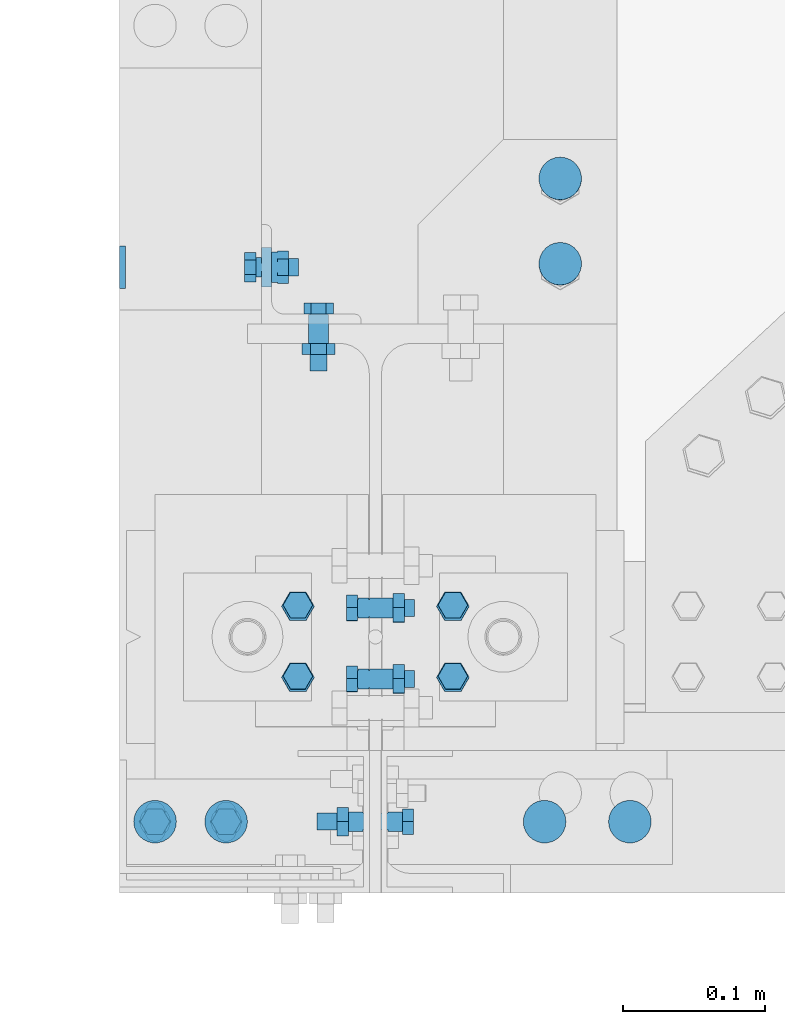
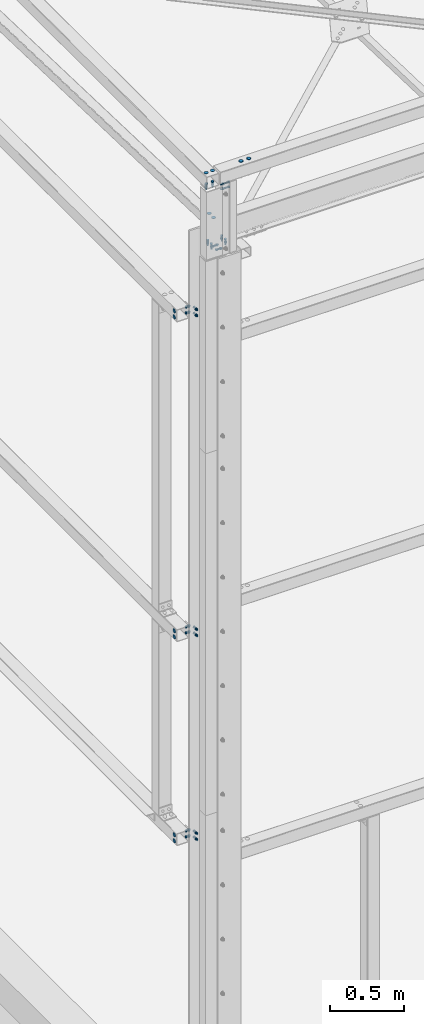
# One storey, part 202 of 362: 17 mechanical fasteners.
"""IFC2X3 building model written with IfcOpenShell, lengths in millimetres."""

from ifc_helpers import new_model, si_unit, frame, frame_2d, origin_with_axes, origin_2d_with_axis, place, context, subcontext, project, spatial, polyline, circle_curve, parameter, trimmed, segment, composite_curve, circle, outline, extrude, source, transform, mapped, material, type_object, element, save


model = new_model("IFC2X3")

# Units and contexts
model_context = context("Model", 3, precision=1e-05, world=origin_with_axes())
body_context = subcontext(model_context, "Body", "Model", "MODEL_VIEW")
ifc_project = project(units=[si_unit("LENGTHUNIT", "METRE", prefix="MILLI"), si_unit("AREAUNIT", "SQUARE_METRE"), si_unit("VOLUMEUNIT", "CUBIC_METRE"), si_unit("MASSUNIT", "GRAM", prefix="KILO"), si_unit("TIMEUNIT", "SECOND"), si_unit("PLANEANGLEUNIT", "RADIAN"), si_unit("SOLIDANGLEUNIT", "STERADIAN"), si_unit("THERMODYNAMICTEMPERATUREUNIT", "DEGREE_CELSIUS"), si_unit("LUMINOUSINTENSITYUNIT", "LUMEN")], contexts=[model_context])

# Site, building, storey
site_placement = place(None, origin_with_axes())
site = spatial("IfcSite", under=ifc_project, at=site_placement, Name="Undefined", CompositionType="ELEMENT")
building_placement = place(site_placement, origin_with_axes())
building = spatial("IfcBuilding", under=site, at=building_placement, Name="Undefined", CompositionType="ELEMENT")
storey_placement = place(building_placement, origin_with_axes())
storey = spatial("IfcBuildingStorey", under=building, at=storey_placement, Name="Undefined", CompositionType="ELEMENT", Elevation=0.0)

# Mechanical fasteners
ifc_material_1 = material(Name="6.8")
mechanical_fastener_type = type_object("IfcMechanicalFastenerType", Name="Bolt assembly")
shared_shape_1 = source(origin_with_axes(), body_context, "Body", "SweptSolid", [
    extrude(circle(Radius=15.0, at=origin_2d_with_axis()), frame((0.0, 0.0, 0.0), z_axis=(0.0, 1.0, 0.0), x_axis=(1.0, 0.0, 0.0)), (0.0, 0.0, 1.0), 4.1),
])
for number, where, z_axis, x_axis, name in (
    (1, (-180.000001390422, 260.00003670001, 7150.00005189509), (0.0, 0.0, 1.0), (0.0, -1.0, 0.0), "Bolt assembly"),
    (2, (-180.000001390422, 259.999986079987, 2810.00002756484), (0.0, 0.0, 1.0), (0.0, -1.0, 0.0), "Bolt assembly"),
    (3, (-180.000001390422, 259.999999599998, 4500.00002768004), (0.0, 0.0, 1.0), (0.0, -1.0, 0.0), "Bolt assembly"),
):
    element("IfcMechanicalFastener", number, at=place(storey_placement, frame(where, z_axis=z_axis, x_axis=x_axis)), inside=storey, type_object=mechanical_fastener_type, material=ifc_material_1, Name=name, NominalDiameter=30.0, NominalLength=4.0, context=body_context, shape_type="MappedRepresentation", body=[
        mapped(shared_shape_1, transform((0.0, 0.0, -25.0))),
        mapped(shared_shape_1, transform((0.0, 0.0, 25.0))),
    ])
mechanical_fastener_1_placement = place(storey_placement, frame((129.999999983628, 322.463518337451, 7839.76745415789), z_axis=(1.0, 0.0, 0.0), x_axis=(0.0, -0.999506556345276, 0.031410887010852)))
element("IfcMechanicalFastener", 4, at=mechanical_fastener_1_placement, inside=storey, type_object=mechanical_fastener_type, material=ifc_material_1, Name="Bolt assembly", NominalDiameter=30.0, NominalLength=4.0, context=body_context, shape_type="MappedRepresentation", body=[
    mapped(shared_shape_1, transform((0.0, 0.0, 0.0))),
    mapped(shared_shape_1, transform((60.0, 0.0, 0.0))),
])
mechanical_fastener_2_placement = place(storey_placement, frame((-154.999999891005, -130.000005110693, 8550.00000001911), z_axis=(0.0, 1.0, 0.0), x_axis=(1.0, 0.0, 0.0)))
element("IfcMechanicalFastener", 5, at=mechanical_fastener_2_placement, inside=storey, type_object=mechanical_fastener_type, material=ifc_material_1, Name="Bolt assembly", NominalDiameter=30.0, NominalLength=4.0, context=body_context, shape_type="MappedRepresentation", body=[
    mapped(shared_shape_1, transform((0.0, 0.0, 0.0))),
    mapped(shared_shape_1, transform((49.9999999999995, 0.0, -3.63797880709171e-12))),
])
mechanical_fastener_3_placement = place(storey_placement, frame((179.000000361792, -130.000005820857, 8550.0), z_axis=(0.0, -1.0, 0.0), x_axis=(-1.0, 0.0, 0.0)))
element("IfcMechanicalFastener", 6, at=mechanical_fastener_3_placement, inside=storey, type_object=mechanical_fastener_type, material=ifc_material_1, Name="Bolt assembly", NominalDiameter=30.0, NominalLength=4.0, context=body_context, shape_type="MappedRepresentation", body=[
    mapped(shared_shape_1, transform((0.0, 0.0, 0.0))),
    mapped(shared_shape_1, transform((60.0, 0.0, 0.0))),
])
ifc_material_2 = material(Name="8.8-SB-ZINGUE")
shared_shape_2 = source(origin_with_axes(), body_context, "Body", "SweptSolid", [
    extrude(circle(Radius=7.0, at=origin_2d_with_axis()), frame((0.0, -3.89999843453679, 0.0), z_axis=(0.0, 1.0, 0.0), x_axis=(1.0, 0.0, 0.0)), (0.0, 0.0, 1.0), 4.0),
    extrude(outline(composite_curve([segment(polyline([(-7.0, 7.0), (7.0, 7.0)]), True, "CONTINUOUS"), segment(trimmed(circle_curve(frame_2d((7.0, 0.0), x_axis=(0.0, 1.0)), 7.0), [parameter(0.0)], [parameter(3.14159265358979)], False, "PARAMETER"), True, "CONTINUOUS"), segment(polyline([(7.0, -7.0), (-7.0, -7.0)]), True, "CONTINUOUS"), segment(trimmed(circle_curve(frame_2d((-7.0, 0.0), x_axis=(0.0, -1.0)), 7.0), [parameter(0.0)], [parameter(3.14159265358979)], False, "PARAMETER"), True, "DISCONTINUOUS")], self_intersect=False)), frame((0.0, -0.100011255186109, 0.0), z_axis=(0.0, 1.0, 0.0), x_axis=(1.0, 0.0, 0.0)), (0.0, 0.0, 1.0), 7.1),
    extrude(outline(polyline([(10.39230484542, 0.0), (5.19615242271, 9.00000000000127), (-5.19615242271, 9.00000000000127), (-10.39230484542, 0.0), (-5.19615242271, -9.00000000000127), (5.19615242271, -9.00000000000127), (10.39230484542, 0.0)])), frame((0.0, -11.9199984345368, 0.0), z_axis=(0.0, 1.0, 0.0), x_axis=(1.0, 0.0, 0.0)), (0.0, 0.0, 1.0), 7.92),
    extrude(circle(Radius=6.0, at=origin_2d_with_axis()), frame((0.0, -3.99999923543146, 0.0), z_axis=(0.0, 1.0, 0.0), x_axis=(1.0, 0.0, 0.0)), (0.0, 0.0, 1.0), 30.0),
    extrude(circle(Radius=10.8, at=origin_2d_with_axis()), frame((0.0, 7.0, 0.0), z_axis=(0.0, 1.0, 0.0), x_axis=(1.0, 0.0, 0.0)), (0.0, 0.0, 1.0), 3.96),
    extrude(outline(polyline([(11.5008173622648, 0.0), (5.7504086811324, 9.96000000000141), (-5.7504086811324, 9.96000000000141), (-11.5008173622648, 0.0), (-5.7504086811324, -9.96000000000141), (5.7504086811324, -9.96000000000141), (11.5008173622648, 0.0)])), frame((0.0, 10.96, 0.0), z_axis=(0.0, 1.0, 0.0), x_axis=(1.0, 0.0, 0.0)), (0.0, 0.0, 1.0), 7.92),
])
mechanical_fastener_4_placement = place(storey_placement, frame((-80.0000013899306, 260.000036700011, 7150.00005189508), z_axis=(0.0, 0.0, 1.0), x_axis=(0.0, -1.0, 0.0)))
element("IfcMechanicalFastener", 7, at=mechanical_fastener_4_placement, inside=storey, type_object=mechanical_fastener_type, material=ifc_material_2, Name="Bolt assembly", NominalDiameter=12.0, NominalLength=30.0, context=body_context, shape_type="MappedRepresentation", body=[
    mapped(shared_shape_2, transform((0.0, 0.0, -25.0))),
    mapped(shared_shape_2, transform((0.0, 0.0, 25.0))),
])
shared_shape_3 = source(origin_with_axes(), body_context, "Body", "SweptSolid", [
    extrude(circle(Radius=7.0, at=origin_2d_with_axis()), frame((0.0, -0.100011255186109, 0.0), z_axis=(0.0, 1.0, 0.0), x_axis=(1.0, 0.0, 0.0)), (0.0, 0.0, 1.0), 13.6),
    extrude(circle(Radius=7.0, at=origin_2d_with_axis()), frame((0.0, -6.9, 0.0), z_axis=(0.0, 1.0, 0.0), x_axis=(1.0, 0.0, 0.0)), (0.0, 0.0, 1.0), 7.0),
    extrude(outline(polyline([(10.39230484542, 0.0), (5.19615242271, 9.00000000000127), (-5.19615242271, 9.00000000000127), (-10.39230484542, 0.0), (-5.19615242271, -9.00000000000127), (5.19615242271, -9.00000000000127), (10.39230484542, 0.0)])), frame((0.0, -14.92, 0.0), z_axis=(0.0, 1.0, 0.0), x_axis=(1.0, 0.0, 0.0)), (0.0, 0.0, 1.0), 7.92),
    extrude(circle(Radius=6.0, at=origin_2d_with_axis()), frame((0.0, -7.0, 0.0), z_axis=(0.0, 1.0, 0.0), x_axis=(1.0, 0.0, 0.0)), (0.0, 0.0, 1.0), 40.0),
    extrude(outline(polyline([(11.5008173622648, 0.0), (5.7504086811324, 9.96000000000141), (-5.7504086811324, 9.96000000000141), (-11.5008173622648, 0.0), (-5.7504086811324, -9.96000000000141), (5.7504086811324, -9.96000000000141), (11.5008173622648, 0.0)])), frame((0.0, 13.4999999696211, 0.0), z_axis=(0.0, 1.0, 0.0), x_axis=(1.0, 0.0, 0.0)), (0.0, 0.0, 1.0), 7.92),
])
for number, where, z_axis, x_axis, name in (
    (8, (-40.0000013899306, 220.000019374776, 7150.00005217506), (0.0, 0.0, 1.0), (-1.0, 0.0, 0.0), "Bolt assembly"),
    (9, (-40.0000013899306, 219.999982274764, 4500.00002796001), (0.0, 0.0, 1.0), (-1.0, 0.0, 0.0), "Bolt assembly"),
):
    element("IfcMechanicalFastener", number, at=place(storey_placement, frame(where, z_axis=z_axis, x_axis=x_axis)), inside=storey, type_object=mechanical_fastener_type, material=ifc_material_2, Name=name, NominalDiameter=12.0, NominalLength=40.0, context=body_context, shape_type="MappedRepresentation", body=[
        mapped(shared_shape_3, transform((0.0, 0.0, -25.0))),
        mapped(shared_shape_3, transform((0.0, 0.0, 25.0))),
    ])
shared_shape_4 = source(origin_with_axes(), body_context, "Body", "SweptSolid", [
    extrude(circle(Radius=7.0, at=origin_2d_with_axis()), frame((0.0, -3.89999843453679, 0.0), z_axis=(0.0, 1.0, 0.0), x_axis=(1.0, 0.0, 0.0)), (0.0, 0.0, 1.0), 4.0),
    extrude(outline(composite_curve([segment(polyline([(-7.0, 7.0), (7.0, 7.0)]), True, "CONTINUOUS"), segment(trimmed(circle_curve(frame_2d((7.0, 0.0), x_axis=(0.0, 1.0)), 7.0), [parameter(0.0)], [parameter(3.14159265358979)], False, "PARAMETER"), True, "CONTINUOUS"), segment(polyline([(7.0, -7.0), (-7.0, -7.0)]), True, "CONTINUOUS"), segment(trimmed(circle_curve(frame_2d((-7.0, 0.0), x_axis=(0.0, -1.0)), 7.0), [parameter(0.0)], [parameter(3.14159265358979)], False, "PARAMETER"), True, "DISCONTINUOUS")], self_intersect=False)), frame((0.0, -0.100011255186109, 0.0), z_axis=(0.0, 1.0, 0.0), x_axis=(1.0, 0.0, 0.0)), (0.0, 0.0, 1.0), 7.1),
    extrude(outline(polyline([(10.39230484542, 0.0), (5.19615242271, 9.00000000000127), (-5.19615242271, 9.00000000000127), (-10.39230484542, 0.0), (-5.19615242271, -9.00000000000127), (5.19615242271, -9.00000000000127), (10.39230484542, 0.0)])), frame((0.0, -11.9199984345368, 0.0), z_axis=(0.0, 1.0, 0.0), x_axis=(1.0, 0.0, 0.0)), (0.0, 0.0, 1.0), 7.92),
    extrude(circle(Radius=6.0, at=origin_2d_with_axis()), frame((0.0, -3.99999923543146, 0.0), z_axis=(0.0, 1.0, 0.0), x_axis=(1.0, 0.0, 0.0)), (0.0, 0.0, 1.0), 30.0),
    extrude(circle(Radius=10.8, at=origin_2d_with_axis()), frame((0.0, 7.0, 0.0), z_axis=(0.0, 1.0, 0.0), x_axis=(1.0, 0.0, 0.0)), (0.0, 0.0, 1.0), 3.96),
    extrude(outline(polyline([(11.5008173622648, 0.0), (5.7504086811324, 9.96000000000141), (-5.7504086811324, 9.96000000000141), (-11.5008173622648, 0.0), (-5.7504086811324, -9.96000000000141), (5.7504086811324, -9.96000000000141), (11.5008173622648, 0.0)])), frame((0.0, 10.96, 0.0), z_axis=(0.0, 1.0, 0.0), x_axis=(1.0, 0.0, 0.0)), (0.0, 0.0, 1.0), 7.92),
])
mechanical_fastener_5_placement = place(storey_placement, frame((-80.0000013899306, 259.999986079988, 2810.00002756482), z_axis=(0.0, 0.0, 1.0), x_axis=(0.0, -1.0, 0.0)))
element("IfcMechanicalFastener", 10, at=mechanical_fastener_5_placement, inside=storey, type_object=mechanical_fastener_type, material=ifc_material_2, Name="Bolt assembly", NominalDiameter=12.0, NominalLength=30.0, context=body_context, shape_type="MappedRepresentation", body=[
    mapped(shared_shape_4, transform((0.0, 0.0, -25.0))),
    mapped(shared_shape_4, transform((0.0, 0.0, 25.0))),
])
shared_shape_5 = source(origin_with_axes(), body_context, "Body", "SweptSolid", [
    extrude(circle(Radius=7.0, at=origin_2d_with_axis()), frame((0.0, -0.10007666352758, 0.0), z_axis=(0.0, 1.0, 0.0), x_axis=(1.0, 0.0, 0.0)), (0.0, 0.0, 1.0), 13.6),
    extrude(circle(Radius=7.0, at=origin_2d_with_axis()), frame((0.0, -6.9, 0.0), z_axis=(0.0, 1.0, 0.0), x_axis=(1.0, 0.0, 0.0)), (0.0, 0.0, 1.0), 7.0),
    extrude(outline(polyline([(10.39230484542, 0.0), (5.19615242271, 9.00000000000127), (-5.19615242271, 9.00000000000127), (-10.39230484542, 0.0), (-5.19615242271, -9.00000000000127), (5.19615242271, -9.00000000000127), (10.39230484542, 0.0)])), frame((0.0, -14.92, 0.0), z_axis=(0.0, 1.0, 0.0), x_axis=(1.0, 0.0, 0.0)), (0.0, 0.0, 1.0), 7.92),
    extrude(circle(Radius=6.0, at=origin_2d_with_axis()), frame((0.0, -7.0, 0.0), z_axis=(0.0, 1.0, 0.0), x_axis=(1.0, 0.0, 0.0)), (0.0, 0.0, 1.0), 40.0),
    extrude(outline(polyline([(11.5008173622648, 0.0), (5.7504086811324, 9.96000000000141), (-5.7504086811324, 9.96000000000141), (-11.5008173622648, 0.0), (-5.7504086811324, -9.96000000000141), (5.7504086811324, -9.96000000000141), (11.5008173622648, 0.0)])), frame((0.0, 13.4999999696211, 0.0), z_axis=(0.0, 1.0, 0.0), x_axis=(1.0, 0.0, 0.0)), (0.0, 0.0, 1.0), 7.92),
])
mechanical_fastener_6_placement = place(storey_placement, frame((-40.0000013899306, 219.999968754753, 2810.00002784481), z_axis=(0.0, 0.0, 1.0), x_axis=(-1.0, 0.0, 0.0)))
element("IfcMechanicalFastener", 11, at=mechanical_fastener_6_placement, inside=storey, type_object=mechanical_fastener_type, material=ifc_material_2, Name="Bolt assembly", NominalDiameter=12.0, NominalLength=40.0, context=body_context, shape_type="MappedRepresentation", body=[
    mapped(shared_shape_5, transform((0.0, 0.0, -25.0))),
    mapped(shared_shape_5, transform((0.0, 0.0, 25.0))),
])
shared_shape_6 = source(origin_with_axes(), body_context, "Body", "SweptSolid", [
    extrude(circle(Radius=7.0, at=origin_2d_with_axis()), frame((0.0, -3.89999843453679, 0.0), z_axis=(0.0, 1.0, 0.0), x_axis=(1.0, 0.0, 0.0)), (0.0, 0.0, 1.0), 4.0),
    extrude(outline(composite_curve([segment(polyline([(-7.0, 7.0), (7.0, 7.0)]), True, "CONTINUOUS"), segment(trimmed(circle_curve(frame_2d((7.0, 0.0), x_axis=(0.0, 1.0)), 7.0), [parameter(0.0)], [parameter(3.14159265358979)], False, "PARAMETER"), True, "CONTINUOUS"), segment(polyline([(7.0, -7.0), (-7.0, -7.0)]), True, "CONTINUOUS"), segment(trimmed(circle_curve(frame_2d((-7.0, 0.0), x_axis=(0.0, -1.0)), 7.0), [parameter(0.0)], [parameter(3.14159265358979)], False, "PARAMETER"), True, "DISCONTINUOUS")], self_intersect=False)), frame((0.0, -0.100011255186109, 0.0), z_axis=(0.0, 1.0, 0.0), x_axis=(1.0, 0.0, 0.0)), (0.0, 0.0, 1.0), 7.1),
    extrude(outline(polyline([(10.39230484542, 0.0), (5.19615242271, 9.00000000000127), (-5.19615242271, 9.00000000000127), (-10.39230484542, 0.0), (-5.19615242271, -9.00000000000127), (5.19615242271, -9.00000000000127), (10.39230484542, 0.0)])), frame((0.0, -11.9199984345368, 0.0), z_axis=(0.0, 1.0, 0.0), x_axis=(1.0, 0.0, 0.0)), (0.0, 0.0, 1.0), 7.92),
    extrude(circle(Radius=6.0, at=origin_2d_with_axis()), frame((0.0, -3.99999923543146, 0.0), z_axis=(0.0, 1.0, 0.0), x_axis=(1.0, 0.0, 0.0)), (0.0, 0.0, 1.0), 30.0),
    extrude(circle(Radius=10.8, at=origin_2d_with_axis()), frame((0.0, 7.0, 0.0), z_axis=(0.0, 1.0, 0.0), x_axis=(1.0, 0.0, 0.0)), (0.0, 0.0, 1.0), 3.96),
    extrude(outline(polyline([(11.5008173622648, 0.0), (5.7504086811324, 9.96000000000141), (-5.7504086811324, 9.96000000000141), (-11.5008173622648, 0.0), (-5.7504086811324, -9.96000000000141), (5.7504086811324, -9.96000000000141), (11.5008173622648, 0.0)])), frame((0.0, 10.96, 0.0), z_axis=(0.0, 1.0, 0.0), x_axis=(1.0, 0.0, 0.0)), (0.0, 0.0, 1.0), 7.92),
])
mechanical_fastener_7_placement = place(storey_placement, frame((-80.0000013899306, 259.9999996, 4500.00002768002), z_axis=(0.0, 0.0, 1.0), x_axis=(0.0, -1.0, 0.0)))
element("IfcMechanicalFastener", 12, at=mechanical_fastener_7_placement, inside=storey, type_object=mechanical_fastener_type, material=ifc_material_2, Name="Bolt assembly", NominalDiameter=12.0, NominalLength=30.0, context=body_context, shape_type="MappedRepresentation", body=[
    mapped(shared_shape_6, transform((0.0, 0.0, -25.0))),
    mapped(shared_shape_6, transform((0.0, 0.0, 25.0))),
])
shared_shape_7 = source(origin_with_axes(), body_context, "Body", "SweptSolid", [
    extrude(circle(Radius=7.0, at=origin_2d_with_axis()), frame((0.0, -4.3000001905, 0.0), z_axis=(0.0, 1.0, 0.0), x_axis=(1.0, 0.0, 0.0)), (0.0, 0.0, 1.0), 8.6),
    extrude(circle(Radius=7.0, at=origin_2d_with_axis()), frame((0.0, -12.3999999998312, 0.0), z_axis=(0.0, 1.0, 0.0), x_axis=(1.0, 0.0, 0.0)), (0.0, 0.0, 1.0), 8.0),
    extrude(circle(Radius=7.0, at=origin_2d_with_axis()), frame((0.0, 4.39999999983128, 0.0), z_axis=(0.0, 1.0, 0.0), x_axis=(1.0, 0.0, 0.0)), (0.0, 0.0, 1.0), 8.1),
    extrude(outline(polyline([(10.39230484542, 0.0), (5.19615242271, 9.00000000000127), (-5.19615242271, 9.00000000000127), (-10.39230484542, 0.0), (-5.19615242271, -9.00000000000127), (5.19615242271, -9.00000000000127), (10.39230484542, 0.0)])), frame((0.0, -20.4199999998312, 0.0), z_axis=(0.0, 1.0, 0.0), x_axis=(1.0, 0.0, 0.0)), (0.0, 0.0, 1.0), 7.92),
    extrude(circle(Radius=6.0, at=origin_2d_with_axis()), frame((0.0, -12.4999999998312, 0.0), z_axis=(0.0, 1.0, 0.0), x_axis=(1.0, 0.0, 0.0)), (0.0, 0.0, 1.0), 40.0),
    extrude(outline(polyline([(11.5008173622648, 0.0), (5.7504086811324, 9.96000000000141), (-5.7504086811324, 9.96000000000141), (-11.5008173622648, 0.0), (-5.7504086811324, -9.96000000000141), (5.7504086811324, -9.96000000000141), (11.5008173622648, 0.0)])), frame((0.0, 12.4999999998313, 0.0), z_axis=(0.0, 1.0, 0.0), x_axis=(1.0, 0.0, 0.0)), (0.0, 0.0, 1.0), 7.92),
])
mechanical_fastener_8_placement = place(storey_placement, frame((0.0, -4.7114670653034, 7800.03150727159), z_axis=(3.14103090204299e-11, 0.999506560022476, -0.0314107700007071), x_axis=(7.58071938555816e-11, 0.0314107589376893, 0.999506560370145)))
element("IfcMechanicalFastener", 13, at=mechanical_fastener_8_placement, inside=storey, type_object=mechanical_fastener_type, material=ifc_material_2, Name="Bolt assembly", NominalDiameter=12.0, NominalLength=40.0, context=body_context, shape_type="MappedRepresentation", body=[
    mapped(shared_shape_7, transform((0.0, 0.0, -25.0))),
    mapped(shared_shape_7, transform((0.0, 0.0, 25.0))),
])
shared_shape_8 = source(origin_with_axes(), body_context, "Body", "SweptSolid", [
    extrude(circle(Radius=7.0, at=origin_2d_with_axis()), frame((0.0, -8.39309251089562, 0.0), z_axis=(0.0, 1.0, 0.0), x_axis=(1.0, 0.0, 0.0)), (0.0, 0.0, 1.0), 8.5),
    extrude(circle(Radius=7.0, at=origin_2d_with_axis()), frame((0.0, -0.100011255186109, 0.0), z_axis=(0.0, 1.0, 0.0), x_axis=(1.0, 0.0, 0.0)), (0.0, 0.0, 1.0), 8.1),
    extrude(outline(polyline([(10.39230484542, 0.0), (5.19615242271, 9.00000000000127), (-5.19615242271, 9.00000000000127), (-10.39230484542, 0.0), (-5.19615242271, -9.00000000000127), (5.19615242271, -9.00000000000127), (10.39230484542, 0.0)])), frame((0.0, -16.4130925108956, 0.0), z_axis=(0.0, 1.0, 0.0), x_axis=(1.0, 0.0, 0.0)), (0.0, 0.0, 1.0), 7.92),
    extrude(circle(Radius=6.0, at=origin_2d_with_axis()), frame((0.0, -8.49309251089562, 0.0), z_axis=(0.0, 1.0, 0.0), x_axis=(1.0, 0.0, 0.0)), (0.0, 0.0, 1.0), 40.49),
    extrude(outline(polyline([(11.5008173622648, 0.0), (5.7504086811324, 9.96000000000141), (-5.7504086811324, 9.96000000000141), (-11.5008173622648, 0.0), (-5.7504086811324, -9.96000000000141), (5.7504086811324, -9.96000000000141), (11.5008173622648, 0.0)])), frame((0.0, 8.00000527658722, 0.0), z_axis=(0.0, 1.0, 0.0), x_axis=(1.0, 0.0, 0.0)), (0.0, 0.0, 1.0), 7.92),
])
mechanical_fastener_9_placement = place(storey_placement, frame((-54.4999999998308, -3.14090619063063, 7850.0068345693), z_axis=(3.14103090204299e-11, 0.999506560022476, -0.0314107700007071), x_axis=(1.0, 0.0, 0.0)))
element("IfcMechanicalFastener", 14, at=mechanical_fastener_9_placement, inside=storey, type_object=mechanical_fastener_type, material=ifc_material_2, Name="Bolt assembly", NominalDiameter=12.0, NominalLength=40.4931221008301, context=body_context, shape_type="MappedRepresentation", body=[
    mapped(shared_shape_8, transform((0.0, 0.0, -25.0))),
    mapped(shared_shape_8, transform((0.0, 0.0, 25.0))),
])
shared_shape_9 = source(origin_with_axes(), body_context, "Body", "SweptSolid", [
    extrude(circle(Radius=7.0, at=origin_2d_with_axis()), frame((0.0, -8.39314340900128, 0.0), z_axis=(0.0, 1.0, 0.0), x_axis=(1.0, 0.0, 0.0)), (0.0, 0.0, 1.0), 8.5),
    extrude(circle(Radius=7.0, at=origin_2d_with_axis()), frame((0.0, -0.100011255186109, 0.0), z_axis=(0.0, 1.0, 0.0), x_axis=(1.0, 0.0, 0.0)), (0.0, 0.0, 1.0), 8.1),
    extrude(outline(polyline([(10.39230484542, 0.0), (5.19615242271, 9.00000000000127), (-5.19615242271, 9.00000000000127), (-10.39230484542, 0.0), (-5.19615242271, -9.00000000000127), (5.19615242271, -9.00000000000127), (10.39230484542, 0.0)])), frame((0.0, -16.4131434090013, 0.0), z_axis=(0.0, 1.0, 0.0), x_axis=(1.0, 0.0, 0.0)), (0.0, 0.0, 1.0), 7.92),
    extrude(circle(Radius=6.0, at=origin_2d_with_axis()), frame((0.0, -8.49314340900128, 0.0), z_axis=(0.0, 1.0, 0.0), x_axis=(1.0, 0.0, 0.0)), (0.0, 0.0, 1.0), 40.49),
    extrude(outline(polyline([(11.5008173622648, 0.0), (5.7504086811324, 9.96000000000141), (-5.7504086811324, 9.96000000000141), (-11.5008173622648, 0.0), (-5.7504086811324, -9.96000000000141), (5.7504086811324, -9.96000000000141), (11.5008173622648, 0.0)])), frame((0.0, 8.00000527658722, 0.0), z_axis=(0.0, 1.0, 0.0), x_axis=(1.0, 0.0, 0.0)), (0.0, 0.0, 1.0), 7.92),
])
mechanical_fastener_10_placement = place(storey_placement, frame((54.4999999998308, -3.14090619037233, 7850.00683456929), z_axis=(0.0, -0.999506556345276, 0.031410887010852), x_axis=(-1.0, 0.0, 0.0)))
element("IfcMechanicalFastener", 15, at=mechanical_fastener_10_placement, inside=storey, type_object=mechanical_fastener_type, material=ifc_material_2, Name="Bolt assembly", NominalDiameter=12.0, NominalLength=40.4931449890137, context=body_context, shape_type="MappedRepresentation", body=[
    mapped(shared_shape_9, transform((0.0, 0.0, -25.0))),
    mapped(shared_shape_9, transform((0.0, 0.0, 25.0))),
])
shared_shape_10 = source(origin_with_axes(), body_context, "Body", "SweptSolid", [
    extrude(circle(Radius=7.0, at=origin_2d_with_axis()), frame((0.0, -3.89999843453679, 0.0), z_axis=(0.0, 1.0, 0.0), x_axis=(1.0, 0.0, 0.0)), (0.0, 0.0, 1.0), 4.0),
    extrude(outline(composite_curve([segment(polyline([(7.0, 7.0), (7.0, -7.0)]), True, "CONTINUOUS"), segment(trimmed(circle_curve(frame_2d((0.0, -7.0), x_axis=(1.0, 0.0)), 7.0), [parameter(0.0)], [parameter(3.14159265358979)], False, "PARAMETER"), True, "CONTINUOUS"), segment(polyline([(-7.0, -7.0), (-7.0, 7.0)]), True, "CONTINUOUS"), segment(trimmed(circle_curve(frame_2d((0.0, 7.0), x_axis=(-1.0, 0.0)), 7.0), [parameter(0.0)], [parameter(3.14159265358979)], False, "PARAMETER"), True, "DISCONTINUOUS")], self_intersect=False)), frame((0.0, -0.100011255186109, 0.0), z_axis=(0.0, 1.0, 0.0), x_axis=(1.0, 0.0, 0.0)), (0.0, 0.0, 1.0), 10.1),
    extrude(outline(polyline([(10.39230484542, 0.0), (5.19615242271, 9.00000000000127), (-5.19615242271, 9.00000000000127), (-10.39230484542, 0.0), (-5.19615242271, -9.00000000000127), (5.19615242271, -9.00000000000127), (10.39230484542, 0.0)])), frame((0.0, -11.9199984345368, 0.0), z_axis=(0.0, 1.0, 0.0), x_axis=(1.0, 0.0, 0.0)), (0.0, 0.0, 1.0), 7.92),
    extrude(circle(Radius=6.0, at=origin_2d_with_axis()), frame((0.0, -3.99999923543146, 0.0), z_axis=(0.0, 1.0, 0.0), x_axis=(1.0, 0.0, 0.0)), (0.0, 0.0, 1.0), 40.0),
    extrude(circle(Radius=10.8, at=origin_2d_with_axis()), frame((0.0, 10.0000000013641, 0.0), z_axis=(0.0, 1.0, 0.0), x_axis=(1.0, 0.0, 0.0)), (0.0, 0.0, 1.0), 3.96),
    extrude(outline(polyline([(11.5008173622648, 0.0), (5.7504086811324, 9.96000000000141), (-5.7504086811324, 9.96000000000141), (-11.5008173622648, 0.0), (-5.7504086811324, -9.96000000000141), (5.7504086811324, -9.96000000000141), (11.5008173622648, 0.0)])), frame((0.0, 13.96, 0.0), z_axis=(0.0, 1.0, 0.0), x_axis=(1.0, 0.0, 0.0)), (0.0, 0.0, 1.0), 7.92),
])
mechanical_fastener_11_placement = place(storey_placement, frame((-154.999999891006, -130.000005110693, 8450.00000001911), z_axis=(0.0, 1.0, 0.0), x_axis=(1.0, 0.0, 0.0)))
element("IfcMechanicalFastener", 16, at=mechanical_fastener_11_placement, inside=storey, type_object=mechanical_fastener_type, material=ifc_material_2, Name="Bolt assembly", NominalDiameter=12.0, NominalLength=40.0, context=body_context, shape_type="MappedRepresentation", body=[
    mapped(shared_shape_10, transform((0.0, 0.0, 0.0))),
    mapped(shared_shape_10, transform((49.9999999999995, 0.0, -3.63797880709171e-12))),
])
shared_shape_11 = source(origin_with_axes(), body_context, "Body", "SweptSolid", [
    extrude(circle(Radius=7.0, at=origin_2d_with_axis()), frame((0.0, 4.30000548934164, 0.0), z_axis=(0.0, 1.0, 0.0), x_axis=(1.0, 0.0, 0.0)), (0.0, 0.0, 1.0), 4.0),
    extrude(circle(Radius=7.0, at=origin_2d_with_axis()), frame((0.0, 8.90000596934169, 0.0), z_axis=(0.0, 1.0, 0.0), x_axis=(1.0, 0.0, 0.0)), (0.0, 0.0, 1.0), 10.1),
    extrude(circle(Radius=7.0, at=origin_2d_with_axis()), frame((0.0, -3.99999923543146, 0.0), z_axis=(0.0, 1.0, 0.0), x_axis=(1.0, 0.0, 0.0)), (0.0, 0.0, 1.0), 8.0),
    extrude(circle(Radius=7.0, at=origin_2d_with_axis()), frame((0.0, -8.29999554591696, 0.0), z_axis=(0.0, 1.0, 0.0), x_axis=(1.0, 0.0, 0.0)), (0.0, 0.0, 1.0), 4.0),
    extrude(circle(Radius=7.0, at=origin_2d_with_axis()), frame((0.0, -18.8999974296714, 0.0), z_axis=(0.0, 1.0, 0.0), x_axis=(1.0, 0.0, 0.0)), (0.0, 0.0, 1.0), 10.0),
    extrude(outline(polyline([(10.39230484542, 0.0), (5.19615242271, 9.00000000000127), (-5.19615242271, 9.00000000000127), (-10.39230484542, 0.0), (-5.19615242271, -9.00000000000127), (5.19615242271, -9.00000000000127), (10.39230484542, 0.0)])), frame((0.0, -26.9199974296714, 0.0), z_axis=(0.0, 1.0, 0.0), x_axis=(1.0, 0.0, 0.0)), (0.0, 0.0, 1.0), 7.92),
    extrude(circle(Radius=6.0, at=origin_2d_with_axis()), frame((0.0, -18.9999974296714, 0.0), z_axis=(0.0, 1.0, 0.0), x_axis=(1.0, 0.0, 0.0)), (0.0, 0.0, 1.0), 60.0),
    extrude(outline(polyline([(11.5008173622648, 0.0), (5.7504086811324, 9.96000000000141), (-5.7504086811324, 9.96000000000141), (-11.5008173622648, 0.0), (-5.7504086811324, -9.96000000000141), (5.7504086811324, -9.96000000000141), (11.5008173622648, 0.0)])), frame((0.0, 19.0000059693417, 0.0), z_axis=(0.0, 1.0, 0.0), x_axis=(1.0, 0.0, 0.0)), (0.0, 0.0, 1.0), 7.92),
])
mechanical_fastener_12_placement = place(storey_placement, frame((5.29884164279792e-06, -130.000007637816, 8370.0), z_axis=(0.0, -1.0, 0.0), x_axis=(0.0, 0.0, 1.0)))
element("IfcMechanicalFastener", 17, at=mechanical_fastener_12_placement, inside=storey, type_object=mechanical_fastener_type, material=ifc_material_2, Name="Bolt assembly", NominalDiameter=12.0, NominalLength=60.0, context=body_context, shape_type="MappedRepresentation", body=[
    mapped(shared_shape_11, transform((0.0, 0.0, 0.0))),
    mapped(shared_shape_11, transform((40.0, 0.0, 0.0))),
])

save(model, "model.ifc")
